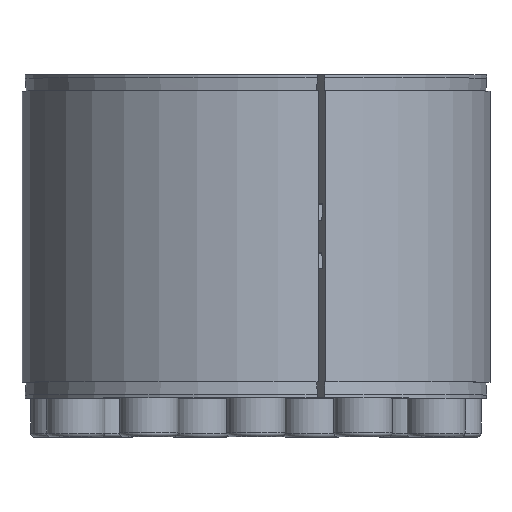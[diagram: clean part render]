
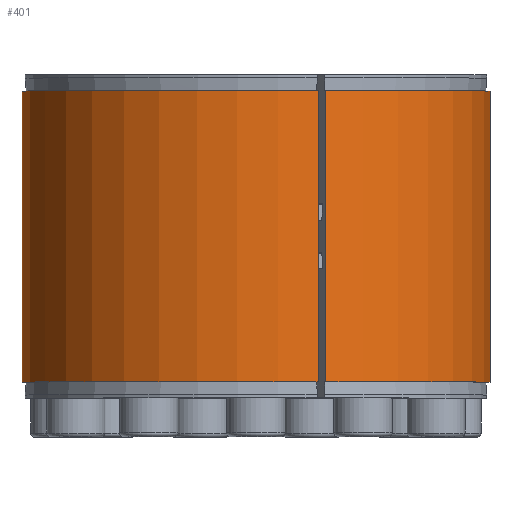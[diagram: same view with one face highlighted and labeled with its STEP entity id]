
A CAD part, top view. The second image highlights one B-rep face of the part: STEP entity #401.
In plain terms, the highlighted cylindrical face has radius 72.5 mm (diameter 145 mm), a partial arc.
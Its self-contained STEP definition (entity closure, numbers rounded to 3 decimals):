
#401 = ADVANCED_FACE( '', ( #655 ), #656, .T. );
#655 = FACE_OUTER_BOUND( '', #920, .T. );
#656 = CYLINDRICAL_SURFACE( '', #921, 72.5 );
#920 = EDGE_LOOP( '', ( #1254, #1255, #1256, #1257 ) );
#921 = AXIS2_PLACEMENT_3D( '', #1258, #1259, #1260 );
#1254 = ORIENTED_EDGE( '', *, *, #1765, .F. );
#1255 = ORIENTED_EDGE( '', *, *, #1766, .T. );
#1256 = ORIENTED_EDGE( '', *, *, #1724, .F. );
#1257 = ORIENTED_EDGE( '', *, *, #1767, .F. );
#1258 = CARTESIAN_POINT( '', ( 0., -60., 0. ) );
#1259 = DIRECTION( '', ( 0., 1., 0. ) );
#1260 = DIRECTION( '', ( 0., 0., -1. ) );
#1724 = EDGE_CURVE( '', #1919, #1921, #1922, .F. );
#1765 = EDGE_CURVE( '', #1997, #1998, #1999, .T. );
#1766 = EDGE_CURVE( '', #1997, #1921, #2000, .T. );
#1767 = EDGE_CURVE( '', #1998, #1919, #2001, .T. );
#1919 = VERTEX_POINT( '', #2155 );
#1921 = VERTEX_POINT( '', #2158 );
#1922 = LINE( '', #2159, #2160 );
#1997 = VERTEX_POINT( '', #2252 );
#1998 = VERTEX_POINT( '', #2253 );
#1999 = LINE( '', #2254, #2255 );
#2000 = CIRCLE( '', #2256, 72.5 );
#2001 = CIRCLE( '', #2257, 72.5 );
#2155 = CARTESIAN_POINT( '', ( 21.622, 5., 69.201 ) );
#2158 = CARTESIAN_POINT( '', ( 21.622, 95., 69.201 ) );
#2159 = CARTESIAN_POINT( '', ( 21.622, -60., 69.201 ) );
#2160 = VECTOR( '', #2408, 1000. );
#2252 = CARTESIAN_POINT( '', ( 19.223, 95., 69.905 ) );
#2253 = CARTESIAN_POINT( '', ( 19.223, 5., 69.905 ) );
#2254 = CARTESIAN_POINT( '', ( 19.223, -60., 69.905 ) );
#2255 = VECTOR( '', #2501, 1000. );
#2256 = AXIS2_PLACEMENT_3D( '', #2502, #2503, #2504 );
#2257 = AXIS2_PLACEMENT_3D( '', #2505, #2506, #2507 );
#2408 = DIRECTION( '', ( 0., -1., 0. ) );
#2501 = DIRECTION( '', ( 0., -1., 0. ) );
#2502 = CARTESIAN_POINT( '', ( 0., 95., 0. ) );
#2503 = DIRECTION( '', ( 0., -1., 0. ) );
#2504 = DIRECTION( '', ( 0., 0., -1. ) );
#2505 = CARTESIAN_POINT( '', ( 0., 5., 0. ) );
#2506 = DIRECTION( '', ( 0., -1., 0. ) );
#2507 = DIRECTION( '', ( 0., 0., -1. ) );
